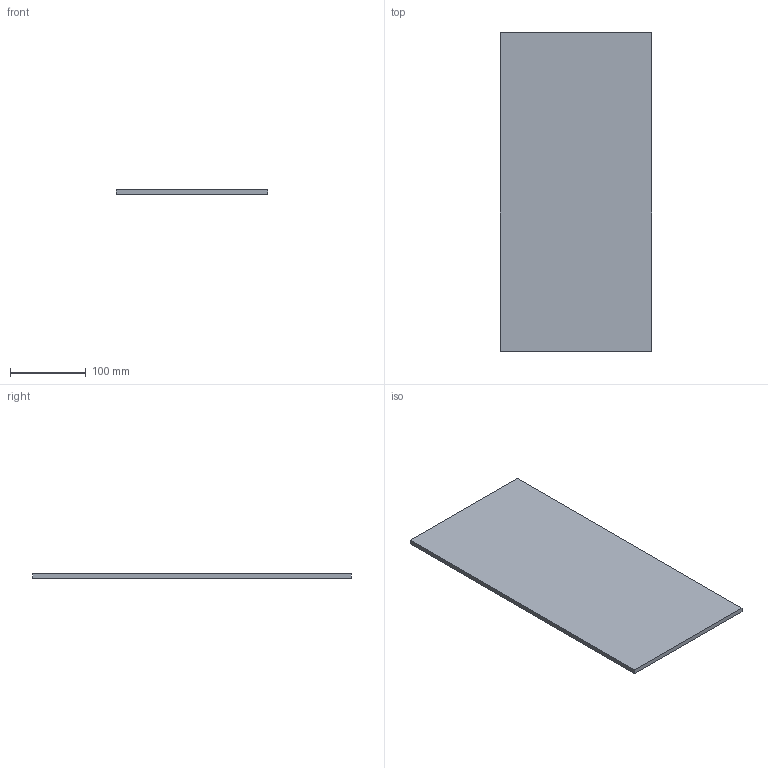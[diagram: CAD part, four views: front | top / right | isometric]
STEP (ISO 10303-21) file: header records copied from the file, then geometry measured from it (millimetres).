
FILE_DESCRIPTION(('Open CASCADE Model'),'2;1');
FILE_NAME('Open CASCADE Shape Model','2026-10-16T18:03:45',('Author'),( 'Open CASCADE'),'Open CASCADE STEP processor 7.8','Open CASCADE 7.8' ,'Unknown');
FILE_SCHEMA(('AUTOMOTIVE_DESIGN { 1 0 10303 214 1 1 1 1 }'));
Length unit declared in the file: millimetre
Products named in the file (1): Open CASCADE STEP translator 7.8 6
Bounding box: 200 x 420 x 6 mm (x, y, z)
Volume: 504000 mm3; surface area: 175440 mm2
Topology: 1 solids, 1 shells, 6 faces, 12 edges, 8 vertices
Faces by surface type: plane 6
Entity records: 322 total; most frequent: CARTESIAN_POINT 51, DIRECTION 50, LINE 36, VECTOR 36, ORIENTED_EDGE 24, PCURVE 24, DEFINITIONAL_REPRESENTATION 24, EDGE_CURVE 12
